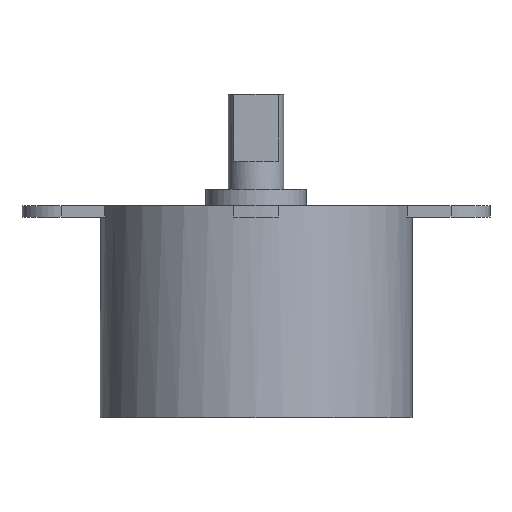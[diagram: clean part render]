
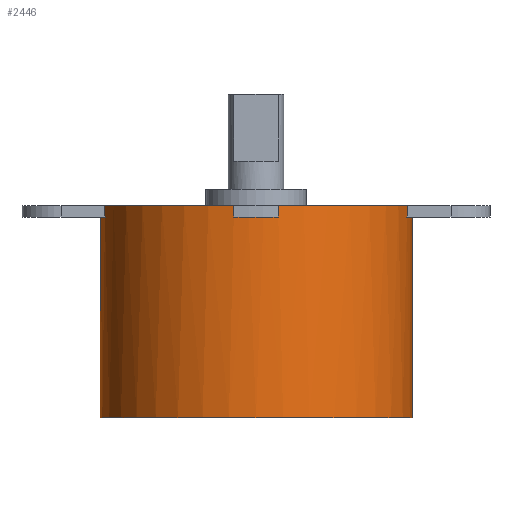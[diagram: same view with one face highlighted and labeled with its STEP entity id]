
A CAD part, front view. The second image highlights one B-rep face of the part: STEP entity #2446.
In plain terms, the highlighted cylindrical face has radius 14 mm (diameter 28 mm), a full revolution.
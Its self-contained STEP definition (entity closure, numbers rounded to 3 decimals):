
#110=CIRCLE('',#2686,14.);
#119=CIRCLE('',#2696,14.);
#120=CIRCLE('',#2697,14.);
#121=CIRCLE('',#2698,14.);
#122=CIRCLE('',#2699,14.);
#123=CIRCLE('',#2700,14.);
#124=CIRCLE('',#2701,14.);
#125=CIRCLE('',#2702,14.);
#126=CIRCLE('',#2703,14.);
#127=CIRCLE('',#2704,14.);
#213=CYLINDRICAL_SURFACE('',#2695,14.);
#255=FACE_OUTER_BOUND('',#402,.T.);
#402=EDGE_LOOP('',(#1683,#1684,#1685,#1686,#1687,#1688,#1689,#1690,#1691,
#1692,#1693,#1694,#1695,#1696,#1697,#1698,#1699,#1700,#1701,#1702));
#582=LINE('',#3797,#831);
#583=LINE('',#3801,#832);
#584=LINE('',#3805,#833);
#585=LINE('',#3809,#834);
#586=LINE('',#3813,#835);
#587=LINE('',#3817,#836);
#588=LINE('',#3821,#837);
#589=LINE('',#3825,#838);
#590=LINE('',#3829,#839);
#831=VECTOR('',#3005,14.);
#832=VECTOR('',#3008,1.);
#833=VECTOR('',#3011,1.);
#834=VECTOR('',#3014,1.);
#835=VECTOR('',#3017,1.);
#836=VECTOR('',#3020,1.);
#837=VECTOR('',#3023,1.);
#838=VECTOR('',#3026,1.);
#839=VECTOR('',#3029,1.);
#1058=VERTEX_POINT('',#3734);
#1088=VERTEX_POINT('',#3796);
#1089=VERTEX_POINT('',#3798);
#1090=VERTEX_POINT('',#3800);
#1091=VERTEX_POINT('',#3802);
#1092=VERTEX_POINT('',#3804);
#1093=VERTEX_POINT('',#3806);
#1094=VERTEX_POINT('',#3808);
#1095=VERTEX_POINT('',#3810);
#1096=VERTEX_POINT('',#3812);
#1097=VERTEX_POINT('',#3814);
#1098=VERTEX_POINT('',#3816);
#1099=VERTEX_POINT('',#3818);
#1100=VERTEX_POINT('',#3820);
#1101=VERTEX_POINT('',#3822);
#1102=VERTEX_POINT('',#3824);
#1103=VERTEX_POINT('',#3826);
#1104=VERTEX_POINT('',#3828);
#1294=EDGE_CURVE('',#1058,#1058,#110,.T.);
#1325=EDGE_CURVE('',#1058,#1088,#582,.T.);
#1326=EDGE_CURVE('',#1088,#1089,#119,.T.);
#1327=EDGE_CURVE('',#1090,#1089,#583,.T.);
#1328=EDGE_CURVE('',#1091,#1090,#120,.T.);
#1329=EDGE_CURVE('',#1092,#1091,#584,.T.);
#1330=EDGE_CURVE('',#1093,#1092,#121,.T.);
#1331=EDGE_CURVE('',#1093,#1094,#585,.T.);
#1332=EDGE_CURVE('',#1095,#1094,#122,.T.);
#1333=EDGE_CURVE('',#1096,#1095,#586,.F.);
#1334=EDGE_CURVE('',#1096,#1097,#123,.T.);
#1335=EDGE_CURVE('',#1098,#1097,#587,.T.);
#1336=EDGE_CURVE('',#1099,#1098,#124,.T.);
#1337=EDGE_CURVE('',#1100,#1099,#588,.F.);
#1338=EDGE_CURVE('',#1100,#1101,#125,.T.);
#1339=EDGE_CURVE('',#1102,#1101,#589,.T.);
#1340=EDGE_CURVE('',#1103,#1102,#126,.T.);
#1341=EDGE_CURVE('',#1104,#1103,#590,.F.);
#1342=EDGE_CURVE('',#1104,#1088,#127,.T.);
#1683=ORIENTED_EDGE('',*,*,#1294,.T.);
#1684=ORIENTED_EDGE('',*,*,#1325,.T.);
#1685=ORIENTED_EDGE('',*,*,#1326,.T.);
#1686=ORIENTED_EDGE('',*,*,#1327,.F.);
#1687=ORIENTED_EDGE('',*,*,#1328,.F.);
#1688=ORIENTED_EDGE('',*,*,#1329,.F.);
#1689=ORIENTED_EDGE('',*,*,#1330,.F.);
#1690=ORIENTED_EDGE('',*,*,#1331,.T.);
#1691=ORIENTED_EDGE('',*,*,#1332,.F.);
#1692=ORIENTED_EDGE('',*,*,#1333,.F.);
#1693=ORIENTED_EDGE('',*,*,#1334,.T.);
#1694=ORIENTED_EDGE('',*,*,#1335,.F.);
#1695=ORIENTED_EDGE('',*,*,#1336,.F.);
#1696=ORIENTED_EDGE('',*,*,#1337,.F.);
#1697=ORIENTED_EDGE('',*,*,#1338,.T.);
#1698=ORIENTED_EDGE('',*,*,#1339,.F.);
#1699=ORIENTED_EDGE('',*,*,#1340,.F.);
#1700=ORIENTED_EDGE('',*,*,#1341,.F.);
#1701=ORIENTED_EDGE('',*,*,#1342,.T.);
#1702=ORIENTED_EDGE('',*,*,#1325,.F.);
#2446=ADVANCED_FACE('',(#255),#213,.T.);
#2686=AXIS2_PLACEMENT_3D('',#3735,#2963,#2964);
#2695=AXIS2_PLACEMENT_3D('',#3795,#3003,#3004);
#2696=AXIS2_PLACEMENT_3D('',#3799,#3006,#3007);
#2697=AXIS2_PLACEMENT_3D('',#3803,#3009,#3010);
#2698=AXIS2_PLACEMENT_3D('',#3807,#3012,#3013);
#2699=AXIS2_PLACEMENT_3D('',#3811,#3015,#3016);
#2700=AXIS2_PLACEMENT_3D('',#3815,#3018,#3019);
#2701=AXIS2_PLACEMENT_3D('',#3819,#3021,#3022);
#2702=AXIS2_PLACEMENT_3D('',#3823,#3024,#3025);
#2703=AXIS2_PLACEMENT_3D('',#3827,#3027,#3028);
#2704=AXIS2_PLACEMENT_3D('',#3830,#3030,#3031);
#2963=DIRECTION('center_axis',(0.,0.,1.));
#2964=DIRECTION('ref_axis',(1.,0.,0.));
#3003=DIRECTION('center_axis',(0.,0.,-1.));
#3004=DIRECTION('ref_axis',(-1.,0.,0.));
#3005=DIRECTION('',(0.,0.,1.));
#3006=DIRECTION('center_axis',(0.,0.,-1.));
#3007=DIRECTION('ref_axis',(-1.,0.,0.));
#3008=DIRECTION('',(0.,0.,-1.));
#3009=DIRECTION('center_axis',(0.,0.,1.));
#3010=DIRECTION('ref_axis',(1.,0.,0.));
#3011=DIRECTION('',(0.,0.,1.));
#3012=DIRECTION('center_axis',(0.,0.,1.));
#3013=DIRECTION('ref_axis',(-1.,0.,0.));
#3014=DIRECTION('',(0.,0.,1.));
#3015=DIRECTION('center_axis',(0.,0.,1.));
#3016=DIRECTION('ref_axis',(1.,0.,0.));
#3017=DIRECTION('',(0.,0.,-1.));
#3018=DIRECTION('center_axis',(0.,0.,-1.));
#3019=DIRECTION('ref_axis',(-1.,0.,0.));
#3020=DIRECTION('',(0.,0.,-1.));
#3021=DIRECTION('center_axis',(0.,0.,1.));
#3022=DIRECTION('ref_axis',(1.,0.,0.));
#3023=DIRECTION('',(0.,0.,-1.));
#3024=DIRECTION('center_axis',(0.,0.,-1.));
#3025=DIRECTION('ref_axis',(-1.,0.,0.));
#3026=DIRECTION('',(0.,0.,-1.));
#3027=DIRECTION('center_axis',(0.,0.,1.));
#3028=DIRECTION('ref_axis',(1.,0.,0.));
#3029=DIRECTION('',(0.,0.,-1.));
#3030=DIRECTION('center_axis',(0.,0.,-1.));
#3031=DIRECTION('ref_axis',(-1.,0.,0.));
#3734=CARTESIAN_POINT('',(14.,0.,0.));
#3735=CARTESIAN_POINT('Origin',(0.,0.,0.));
#3795=CARTESIAN_POINT('Origin',(0.,0.,19.));
#3796=CARTESIAN_POINT('',(14.,0.,18.));
#3797=CARTESIAN_POINT('',(14.,0.,19.));
#3798=CARTESIAN_POINT('',(13.555,-3.5,18.));
#3799=CARTESIAN_POINT('Origin',(0.,0.,18.));
#3800=CARTESIAN_POINT('',(13.555,-3.5,19.));
#3801=CARTESIAN_POINT('',(13.555,-3.5,19.));
#3802=CARTESIAN_POINT('',(2.,-13.856,19.));
#3803=CARTESIAN_POINT('Origin',(0.,0.,19.));
#3804=CARTESIAN_POINT('',(2.,-13.856,18.));
#3805=CARTESIAN_POINT('',(2.,-13.856,18.));
#3806=CARTESIAN_POINT('',(-2.,-13.856,18.));
#3807=CARTESIAN_POINT('Origin',(0.,0.,
18.));
#3808=CARTESIAN_POINT('',(-2.,-13.856,19.));
#3809=CARTESIAN_POINT('',(-2.,-13.856,18.));
#3810=CARTESIAN_POINT('',(-13.555,-3.5,19.));
#3811=CARTESIAN_POINT('Origin',(0.,0.,19.));
#3812=CARTESIAN_POINT('',(-13.555,-3.5,18.));
#3813=CARTESIAN_POINT('',(-13.555,-3.5,19.));
#3814=CARTESIAN_POINT('',(-13.555,3.5,18.));
#3815=CARTESIAN_POINT('Origin',(0.,0.,18.));
#3816=CARTESIAN_POINT('',(-13.555,3.5,19.));
#3817=CARTESIAN_POINT('',(-13.555,3.5,19.));
#3818=CARTESIAN_POINT('',(-7.3,11.946,19.));
#3819=CARTESIAN_POINT('Origin',(0.,0.,19.));
#3820=CARTESIAN_POINT('',(-7.3,11.946,18.));
#3821=CARTESIAN_POINT('',(-7.3,11.946,19.));
#3822=CARTESIAN_POINT('',(7.3,11.946,18.));
#3823=CARTESIAN_POINT('Origin',(0.,0.,18.));
#3824=CARTESIAN_POINT('',(7.3,11.946,19.));
#3825=CARTESIAN_POINT('',(7.3,11.946,19.));
#3826=CARTESIAN_POINT('',(13.555,3.5,19.));
#3827=CARTESIAN_POINT('Origin',(0.,0.,19.));
#3828=CARTESIAN_POINT('',(13.555,3.5,18.));
#3829=CARTESIAN_POINT('',(13.555,3.5,19.));
#3830=CARTESIAN_POINT('Origin',(0.,0.,18.));
